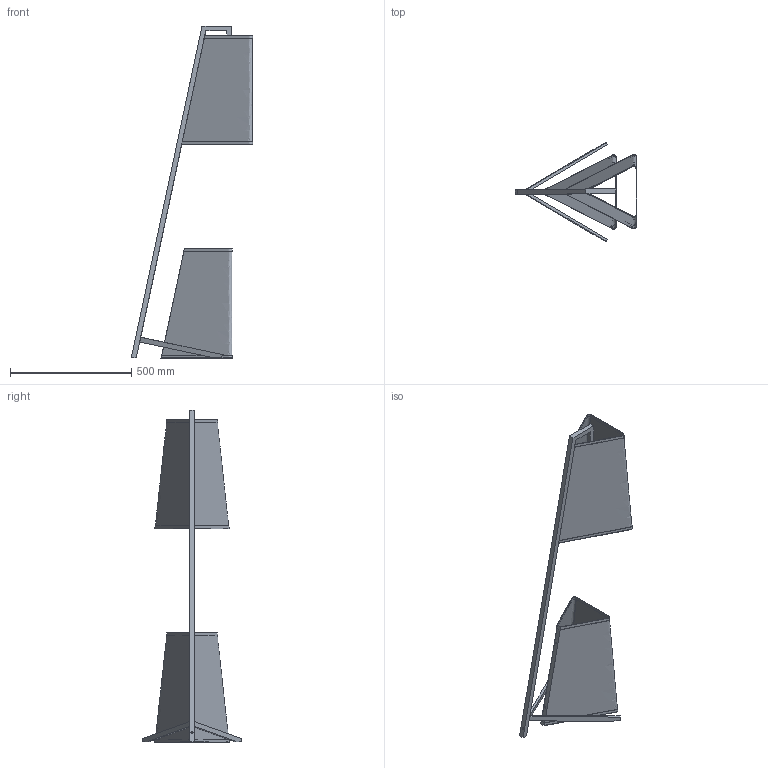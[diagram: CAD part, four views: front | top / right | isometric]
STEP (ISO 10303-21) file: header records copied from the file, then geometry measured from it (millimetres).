
FILE_DESCRIPTION( ( 'STEP AP203' ), '1' );
FILE_NAME( '//srvbf/BF Disegni/LAMPADA ODEON/ODEON-P Piantana 3D.stp', '2020-10-16T08:13:34', ( ' ' ), ( ' ' ), 'XStep 1.0', ' ', ' ' );
FILE_SCHEMA( ( 'CONFIG_CONTROL_DESIGN) ( )' ) );
Length unit declared in the file: metre
Products named in the file (5): Assem1; 1; 2; 3; 4
Bounding box: 500.25 x 408.5 x 1369.4 mm (x, y, z)
Volume: 2315835.8 mm3; surface area: 1896344.6 mm2
Topology: 8 solids, 8 shells, 120 faces, 302 edges, 208 vertices
Faces by surface type: plane 84, cylinder 12, offset 12, bspline 12
Full cylindrical faces by diameter (mm): 3.242 x4, 5 x4, 8.917 x4
Entity records: 5934 total; most frequent: CARTESIAN_POINT 4345, ORIENTED_EDGE 286, DIRECTION 231, EDGE_CURVE 143, VERTEX_POINT 102, LINE 101, VECTOR 101, EDGE_LOOP 81
